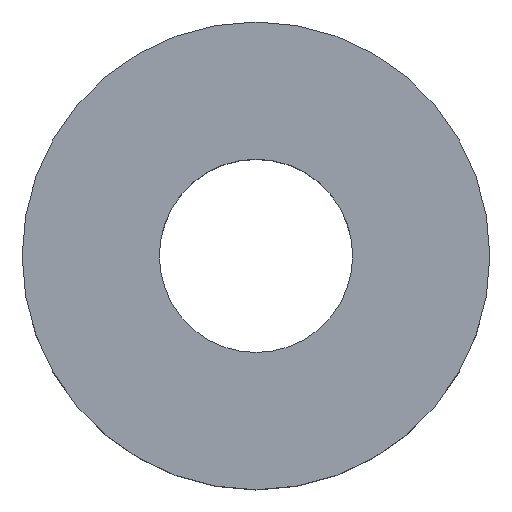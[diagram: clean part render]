
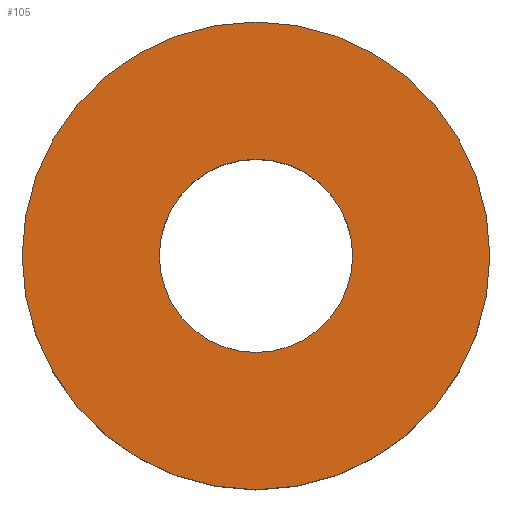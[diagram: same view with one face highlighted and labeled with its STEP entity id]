
A CAD part, top view. The second image highlights one B-rep face of the part: STEP entity #105.
In plain terms, the highlighted planar face has unit normal (0, 0, 1).
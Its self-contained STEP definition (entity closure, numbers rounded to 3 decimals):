
#21 = EDGE_CURVE('',#22,#22,#24,.T.);
#22 = VERTEX_POINT('',#23);
#23 = CARTESIAN_POINT('',(150.,0.,113.));
#24 = SURFACE_CURVE('',#25,(#30,#42),.PCURVE_S1.);
#25 = CIRCLE('',#26,15.);
#26 = AXIS2_PLACEMENT_3D('',#27,#28,#29);
#27 = CARTESIAN_POINT('',(135.,0.,113.));
#28 = DIRECTION('',(0.,0.,1.));
#29 = DIRECTION('',(1.,0.,-0.));
#30 = PCURVE('',#31,#36);
#31 = CYLINDRICAL_SURFACE('',#32,15.);
#32 = AXIS2_PLACEMENT_3D('',#33,#34,#35);
#33 = CARTESIAN_POINT('',(135.,0.,103.));
#34 = DIRECTION('',(0.,0.,1.));
#35 = DIRECTION('',(1.,0.,-0.));
#36 = DEFINITIONAL_REPRESENTATION('',(#37),#41);
#37 = LINE('',#38,#39);
#38 = CARTESIAN_POINT('',(0.,10.));
#39 = VECTOR('',#40,1.);
#40 = DIRECTION('',(1.,0.));
#41 = ( GEOMETRIC_REPRESENTATION_CONTEXT(2) 
PARAMETRIC_REPRESENTATION_CONTEXT() REPRESENTATION_CONTEXT('2D SPACE',''
  ) );
#42 = PCURVE('',#43,#48);
#43 = PLANE('',#44);
#44 = AXIS2_PLACEMENT_3D('',#45,#46,#47);
#45 = CARTESIAN_POINT('',(135.,0.,113.));
#46 = DIRECTION('',(0.,0.,1.));
#47 = DIRECTION('',(1.,0.,-0.));
#48 = DEFINITIONAL_REPRESENTATION('',(#49),#53);
#49 = CIRCLE('',#50,15.);
#50 = AXIS2_PLACEMENT_2D('',#51,#52);
#51 = CARTESIAN_POINT('',(0.,0.));
#52 = DIRECTION('',(1.,0.));
#53 = ( GEOMETRIC_REPRESENTATION_CONTEXT(2) 
PARAMETRIC_REPRESENTATION_CONTEXT() REPRESENTATION_CONTEXT('2D SPACE',''
  ) );
#105 = ADVANCED_FACE('',(#106,#109),#43,.T.);
#106 = FACE_BOUND('',#107,.T.);
#107 = EDGE_LOOP('',(#108));
#108 = ORIENTED_EDGE('',*,*,#21,.T.);
#109 = FACE_BOUND('',#110,.T.);
#110 = EDGE_LOOP('',(#111));
#111 = ORIENTED_EDGE('',*,*,#112,.F.);
#112 = EDGE_CURVE('',#113,#113,#115,.T.);
#113 = VERTEX_POINT('',#114);
#114 = CARTESIAN_POINT('',(141.2,0.,113.));
#115 = SURFACE_CURVE('',#116,(#121,#128),.PCURVE_S1.);
#116 = CIRCLE('',#117,6.2);
#117 = AXIS2_PLACEMENT_3D('',#118,#119,#120);
#118 = CARTESIAN_POINT('',(135.,0.,113.));
#119 = DIRECTION('',(0.,0.,1.));
#120 = DIRECTION('',(1.,0.,-0.));
#121 = PCURVE('',#43,#122);
#122 = DEFINITIONAL_REPRESENTATION('',(#123),#127);
#123 = CIRCLE('',#124,6.2);
#124 = AXIS2_PLACEMENT_2D('',#125,#126);
#125 = CARTESIAN_POINT('',(0.,0.));
#126 = DIRECTION('',(1.,0.));
#127 = ( GEOMETRIC_REPRESENTATION_CONTEXT(2) 
PARAMETRIC_REPRESENTATION_CONTEXT() REPRESENTATION_CONTEXT('2D SPACE',''
  ) );
#128 = PCURVE('',#129,#134);
#129 = CYLINDRICAL_SURFACE('',#130,6.2);
#130 = AXIS2_PLACEMENT_3D('',#131,#132,#133);
#131 = CARTESIAN_POINT('',(135.,0.,103.));
#132 = DIRECTION('',(0.,0.,1.));
#133 = DIRECTION('',(1.,0.,-0.));
#134 = DEFINITIONAL_REPRESENTATION('',(#135),#139);
#135 = LINE('',#136,#137);
#136 = CARTESIAN_POINT('',(0.,10.));
#137 = VECTOR('',#138,1.);
#138 = DIRECTION('',(1.,0.));
#139 = ( GEOMETRIC_REPRESENTATION_CONTEXT(2) 
PARAMETRIC_REPRESENTATION_CONTEXT() REPRESENTATION_CONTEXT('2D SPACE',''
  ) );
